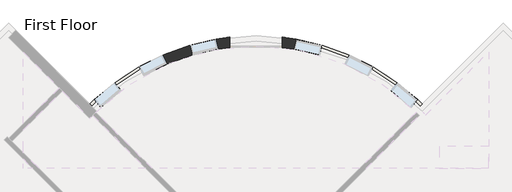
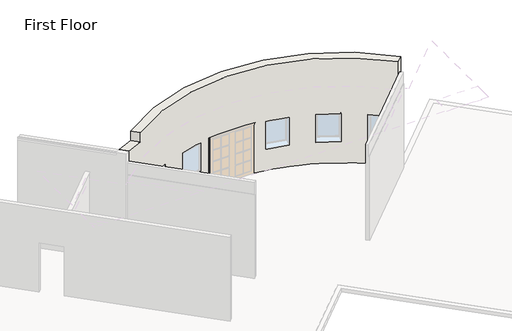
# One storey, part 2 of 4: 1 wall.
"""IFC4 building model written with IfcOpenShell, lengths in millimetres."""

from ifc_helpers import new_model, si_unit, frame, origin, place, context, project, spatial, polyline, circle_curve, ellipse_curve, element, save
from ifc_brep_helpers import plane_surface, cylinder_surface, revolved_surface, advanced_brep

model = new_model("IFC4")

# Units and contexts
model_context = context("Model", 3, world=origin())
ifc_project = project(units=[si_unit("LENGTHUNIT", "METRE", prefix="MILLI")], contexts=[model_context])

# Site, building, storey
site = spatial("IfcSite", under=ifc_project)
building = spatial("IfcBuilding", under=site)
storey = spatial("IfcBuildingStorey", under=building, Name="First Floor", Elevation=0.0)

# Wall
placement = place(None, origin())
element("IfcWall", 1, ObjectType="Exterior - Split Face and CMU on Mtl. Stud", at=placement, inside=storey, context=model_context, shape_type="AdvancedBrep", body=[
    advanced_brep(
    [(-7732.4664887, 9541.1807277, 4572.0), (2926.4294954, 8746.9912878, 4572.0), (2926.4294954, 8746.9912878, 3251.2), (-8662.486224, 8746.9912878, 3251.2), (-8662.486224, 8746.9912878, 4572.0), (-7732.4664887, 9541.1807277, 4165.6), (-3783.1764381, 11081.700582, 0.0), (-8662.486224, 8746.9912878, 0.0), (-8662.486224, 8746.9912878, 1016.0), (-8500.5279216, 8903.2474265, 1016.0), (-8500.5279216, 8903.2474265, 914.4), (-7800.1106469, 9491.0764845, 914.4), (-7800.1106469, 9491.0764845, 1016.0), (-6944.2047205, 10052.3449451, 1016.0), (-6944.2047205, 10052.3449451, 914.4), (-6125.9140626, 10460.4230739, 914.4), (-6125.9140626, 10460.4230739, 1016.0), (-5162.631365, 10806.3763718, 1016.0), (-5162.631365, 10806.3763718, 914.4), (-4271.6861959, 11012.153109, 914.4), (-4271.6861959, 11012.153109, 1016.0), (-3783.1764381, 11081.700582, 1016.0), (2926.4294954, 8746.9912878, 0.0), (-1954.3764458, 11081.8678573, 0.0), (-1954.3764458, 11081.8678573, 1016.0), (-1464.3705327, 11012.153109, 1016.0), (-1464.3705327, 11012.153109, 914.4), (-573.4253636, 10806.3763718, 914.4), (-573.4253636, 10806.3763718, 1016.0), (389.857334, 10460.4230739, 1016.0), (389.857334, 10460.4230739, 914.4), (1208.1479919, 10052.3449451, 914.4), (1208.1479919, 10052.3449451, 1016.0), (2064.0539183, 9491.0764845, 1016.0), (2064.0539183, 9491.0764845, 914.4), (2764.471193, 8903.2474265, 914.4), (2764.471193, 8903.2474265, 1016.0), (2926.4294954, 8746.9912878, 1016.0), (-1954.3764458, 11081.8678573, 2133.6), (-3783.1764381, 11081.700582, 2133.6), (-3783.1764381, 11081.700582, 2336.8), (-4271.6861959, 11012.153109, 2336.8), (-4271.6861959, 11012.153109, 2133.6), (-5162.631365, 10806.3763718, 2133.6), (-5162.631365, 10806.3763718, 2336.8), (-6125.9140626, 10460.4230739, 2336.8), (-6125.9140626, 10460.4230739, 2133.6), (-6944.2047205, 10052.3449451, 2133.6), (-6944.2047205, 10052.3449451, 2336.8), (-7800.1106469, 9491.0764845, 2336.8), (-7800.1106469, 9491.0764845, 2133.6), (-8500.5279216, 8903.2474265, 2133.6), (-8500.5279216, 8903.2474265, 2336.8), (-8662.486224, 8746.9912878, 2336.8), (-8662.486224, 8746.9912878, 3048.0), (2926.4294954, 8746.9912878, 3048.0), (2926.4294954, 8746.9912878, 2336.8), (2764.471193, 8903.2474265, 2336.8), (2764.471193, 8903.2474265, 2133.6), (2064.0539183, 9491.0764845, 2133.6), (2064.0539183, 9491.0764845, 2336.8), (1208.1479919, 10052.3449451, 2336.8), (1208.1479919, 10052.3449451, 2133.6), (389.857334, 10460.4230739, 2133.6), (389.857334, 10460.4230739, 2336.8), (-573.4253636, 10806.3763718, 2336.8), (-573.4253636, 10806.3763718, 2133.6), (-1464.3705327, 11012.153109, 2133.6), (-1464.3705327, 11012.153109, 2336.8), (-1954.3764458, 11081.8678573, 2336.8), (-1954.3764458, 11081.8678573, 1085.85), (-1954.3764458, 11081.8678573, 2133.6), (-1464.3705327, 11012.153109, 2133.6), (-1464.3705327, 11012.153109, 1085.85), (-3783.1764381, 11081.700582, 2133.6), (-3783.1764381, 11081.700582, 1085.85), (-4271.6861959, 11012.153109, 1085.85), (-4271.6861959, 11012.153109, 2133.6), (389.857334, 10460.4230739, 2133.6), (389.857334, 10460.4230739, 1085.85), (-573.4253636, 10806.3763718, 1085.85), (-573.4253636, 10806.3763718, 2133.6), (1208.1479919, 10052.3449451, 1085.85), (1208.1479919, 10052.3449451, 2133.6), (2064.0539183, 9491.0764845, 2133.6), (2064.0539183, 9491.0764845, 1085.85), (2764.471193, 8903.2474265, 1085.85), (2764.471193, 8903.2474265, 2133.6), (2926.4294954, 8746.9912878, 2133.6), (2926.4294954, 8746.9912878, 1085.85), (-6944.2047205, 10052.3449451, 2133.6), (-6944.2047205, 10052.3449451, 1085.85), (-7800.1106469, 9491.0764845, 1085.85), (-7800.1106469, 9491.0764845, 2133.6), (-6125.9140626, 10460.4230739, 1085.85), (-6125.9140626, 10460.4230739, 2133.6), (-5162.631365, 10806.3763718, 2133.6), (-5162.631365, 10806.3763718, 1085.85), (-8500.5279216, 8903.2474265, 2133.6), (-8500.5279216, 8903.2474265, 1085.85), (-8662.486224, 8746.9912878, 1085.85), (-8662.486224, 8746.9912878, 2133.6), (2677.2250436, 8497.7868359, 0.0), (2677.2250436, 8497.7868359, 4165.6), (2677.2250436, 8497.7868359, 4572.0), (-7480.1850855, 9288.8993245, 4572.0), (-7480.1850855, 9288.8993245, 4165.6), (-8413.2817722, 8497.7868359, 4572.0), (-8413.2817722, 8497.7868359, 0.0), (-3783.1439929, 10726.9805509, 0.0), (-3783.1439929, 10726.9805509, 2133.6), (-1954.3440005, 10727.1478261, 2133.6), (-1954.3440005, 10727.1478261, 0.0), (232.3230312, 10144.5305053, 914.4), (232.3230312, 10144.5305053, 2133.6), (1050.6136891, 9736.4523766, 2133.6), (1050.6136891, 9736.4523766, 914.4), (-1543.8084946, 10668.2130246, 914.4), (-1543.8084946, 10668.2130246, 2133.6), (-652.8633255, 10462.4362874, 2133.6), (-652.8633255, 10462.4362874, 914.4), (1837.1286453, 9220.6877054, 914.4), (1837.1286453, 9220.6877054, 2133.6), (2537.5459199, 8632.8586475, 2133.6), (2537.5459199, 8632.8586475, 914.4), (-6786.6704177, 9736.4523766, 914.4), (-6786.6704177, 9736.4523766, 2133.6), (-5968.3797598, 10144.5305053, 2133.6), (-5968.3797598, 10144.5305053, 914.4), (-5083.1934032, 10462.4362874, 914.4), (-5083.1934032, 10462.4362874, 2133.6), (-4192.248234, 10668.2130246, 2133.6), (-4192.248234, 10668.2130246, 914.4), (-8273.6026485, 8632.8586475, 914.4), (-8273.6026485, 8632.8586475, 2133.6), (-7573.1853739, 9220.6877054, 2133.6), (-7573.1853739, 9220.6877054, 914.4), (2861.3220456, 8681.8838379, 1016.0), (2861.3220456, 8681.8838379, 1085.85), (2861.3220456, 8681.8838379, 2133.6), (2861.3220456, 8681.8838379, 2336.8), (2861.3220456, 8681.8838379, 3048.0), (2861.3220456, 8681.8838379, 3251.2), (-8597.3787742, 8681.8838379, 3251.2), (-8597.3787742, 8681.8838379, 3048.0), (-8597.3787742, 8681.8838379, 2336.8), (-8597.3787742, 8681.8838379, 2133.6), (-8597.3787742, 8681.8838379, 1085.85), (-8597.3787742, 8681.8838379, 1016.0), (-3783.1679632, 10989.045348, 1016.0), (-3783.1679632, 10989.045348, 1085.85), (-3783.1679632, 10989.045348, 2133.6), (-1964.5986316, 10990.3620512, 2133.6), (-1954.3679708, 10989.2126232, 2133.6), (-3772.9375129, 10990.1966475, 2133.6), (-1954.3679708, 10989.2126232, 1085.85), (-1954.3679708, 10989.2126232, 1016.0), (348.7018531, 10377.8968537, 1016.0), (348.7018531, 10377.8968537, 1085.85), (348.7018531, 10377.8968537, 2133.6), (1166.992511, 9969.8187249, 2133.6), (1166.992511, 9969.8187249, 1085.85), (1166.992511, 9969.8187249, 1016.0), (1162.5426237, 9972.357721, 2133.6), (353.4072239, 10375.8701608, 2133.6), (-1485.1235209, 10922.2995387, 1016.0), (-1485.1235209, 10922.2995387, 1085.85), (-1485.1235209, 10922.2995387, 2133.6), (-594.1783517, 10716.5228014, 2133.6), (-594.1783517, 10716.5228014, 1085.85), (-594.1783517, 10716.5228014, 1016.0), (-599.0980052, 10717.9528393, 2133.6), (-1480.0750378, 10921.4272905, 2133.6), (2004.7702032, 9420.4380266, 1016.0), (2004.7702032, 9420.4380266, 1085.85), (2004.7702032, 9420.4380266, 2133.6), (2705.1874778, 8832.6089686, 2133.6), (2705.1874778, 8832.6089686, 1085.85), (2705.1874778, 8832.6089686, 1016.0), (2701.4532581, 8836.1166176, 2133.6), (2008.8724422, 9417.3688844, 2133.6), (-6903.0492396, 9969.8187249, 1016.0), (-6903.0492396, 9969.8187249, 1085.85), (-6903.0492396, 9969.8187249, 2133.6), (-6084.7585817, 10377.8968537, 2133.6), (-6084.7585817, 10377.8968537, 1085.85), (-6084.7585817, 10377.8968537, 1016.0), (-6089.4639525, 10375.8701608, 2133.6), (-6898.5993523, 9972.357721, 2133.6), (-5141.8783769, 10716.5228014, 1016.0), (-5141.8783769, 10716.5228014, 1085.85), (-5141.8783769, 10716.5228014, 2133.6), (-4250.9332077, 10922.2995387, 2133.6), (-4250.9332077, 10922.2995387, 1085.85), (-4250.9332077, 10922.2995387, 1016.0), (-4255.9816908, 10921.4272905, 2133.6), (-5136.9587234, 10717.9528393, 2133.6), (-8441.2442064, 8832.6089686, 1016.0), (-8441.2442064, 8832.6089686, 1085.85), (-8441.2442064, 8832.6089686, 2133.6), (-7740.8269318, 9420.4380266, 2133.6), (-7740.8269318, 9420.4380266, 1085.85), (-7740.8269318, 9420.4380266, 1016.0), (-7744.9291708, 9417.3688844, 2133.6), (-8437.5099867, 8836.1166176, 2133.6), (-8437.5099867, 8836.1166176, 2336.8), (-7744.9291708, 9417.3688844, 2336.8), (-6898.5993523, 9972.357721, 2336.8), (-6089.4639525, 10375.8701608, 2336.8), (-5136.9587234, 10717.9528393, 2336.8), (-4255.9816908, 10921.4272905, 2336.8), (-3772.9375129, 10990.1966475, 2336.8), (-1964.5986316, 10990.3620512, 2336.8), (-1480.0750378, 10921.4272905, 2336.8), (-599.0980052, 10717.9528393, 2336.8), (353.4072239, 10375.8701608, 2336.8), (1162.5426237, 9972.357721, 2336.8), (2008.8724422, 9417.3688844, 2336.8), (2701.4532581, 8836.1166176, 2336.8)],
    [
        (0, 1, circle_curve(frame((-2868.0283643, 2903.1420194, 4572.0), z_axis=(0.0, 0.0, -1.0), x_axis=(1.0, 0.0, 0.0)), 8229.6)),
        (1, 2),
        (2, 3, circle_curve(frame((-2868.0283643, 2903.1420194, 3251.2), z_axis=(0.0, 0.0, 1.0), x_axis=(1.0, 0.0, 0.0)), 8229.6)),
        (3, 4),
        (4, 5, ellipse_curve(frame((-2868.0283643, 2903.1420194, 4583.6416667), z_axis=(-0.2236067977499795, -0.22360679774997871, -0.9486832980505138), x_axis=(-0.6708203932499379, -0.6708203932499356, 0.31622776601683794)), 8674.7600774, 8229.6)),
        (5, 0),
        (6, 7, circle_curve(frame((-2868.0283643, 2903.1420194, 0.0), z_axis=(0.0, 0.0, 1.0), x_axis=(1.0, 0.0, 0.0)), 8229.6)),
        (7, 8),
        (8, 9, circle_curve(frame((-2868.0283643, 2903.1420194, 1016.0), z_axis=(0.0, 0.0, -1.0), x_axis=(1.0, 0.0, 0.0)), 8229.6)),
        (9, 10),
        (10, 11, circle_curve(frame((-2868.0283643, 2903.1420194, 914.4), z_axis=(0.0, 0.0, -1.0), x_axis=(1.0, 0.0, 0.0)), 8229.6)),
        (11, 12),
        (12, 13, circle_curve(frame((-2868.0283643, 2903.1420194, 1016.0), z_axis=(0.0, 0.0, -1.0), x_axis=(1.0, 0.0, 0.0)), 8229.6)),
        (13, 14),
        (14, 15, circle_curve(frame((-2868.0283643, 2903.1420194, 914.4), z_axis=(0.0, 0.0, -1.0), x_axis=(1.0, 0.0, 0.0)), 8229.6)),
        (15, 16),
        (16, 17, circle_curve(frame((-2868.0283643, 2903.1420194, 1016.0), z_axis=(0.0, 0.0, -1.0), x_axis=(1.0, 0.0, 0.0)), 8229.6)),
        (17, 18),
        (18, 19, circle_curve(frame((-2868.0283643, 2903.1420194, 914.4), z_axis=(0.0, 0.0, -1.0), x_axis=(1.0, 0.0, 0.0)), 8229.6)),
        (19, 20),
        (20, 21, circle_curve(frame((-2868.0283643, 2903.1420194, 1016.0), z_axis=(0.0, 0.0, -1.0), x_axis=(1.0, 0.0, 0.0)), 8229.6)),
        (21, 6),
        (22, 23, circle_curve(frame((-2868.0283643, 2903.1420194, 0.0), z_axis=(0.0, 0.0, 1.0), x_axis=(1.0, 0.0, 0.0)), 8229.6)),
        (23, 24),
        (24, 25, circle_curve(frame((-2868.0283643, 2903.1420194, 1016.0), z_axis=(0.0, 0.0, -1.0), x_axis=(1.0, 0.0, 0.0)), 8229.6)),
        (25, 26),
        (26, 27, circle_curve(frame((-2868.0283643, 2903.1420194, 914.4), z_axis=(0.0, 0.0, -1.0), x_axis=(1.0, 0.0, 0.0)), 8229.6)),
        (27, 28),
        (28, 29, circle_curve(frame((-2868.0283643, 2903.1420194, 1016.0), z_axis=(0.0, 0.0, -1.0), x_axis=(1.0, 0.0, 0.0)), 8229.6)),
        (29, 30),
        (30, 31, circle_curve(frame((-2868.0283643, 2903.1420194, 914.4), z_axis=(0.0, 0.0, -1.0), x_axis=(1.0, 0.0, 0.0)), 8229.6)),
        (31, 32),
        (32, 33, circle_curve(frame((-2868.0283643, 2903.1420194, 1016.0), z_axis=(0.0, 0.0, -1.0), x_axis=(1.0, 0.0, 0.0)), 8229.6)),
        (33, 34),
        (34, 35, circle_curve(frame((-2868.0283643, 2903.1420194, 914.4), z_axis=(0.0, 0.0, -1.0), x_axis=(1.0, 0.0, 0.0)), 8229.6)),
        (35, 36),
        (36, 37, circle_curve(frame((-2868.0283643, 2903.1420194, 1016.0), z_axis=(0.0, 0.0, -1.0), x_axis=(1.0, 0.0, 0.0)), 8229.6)),
        (37, 22),
        (38, 39, circle_curve(frame((-2868.0283643, 2903.1420194, 2133.6), z_axis=(0.0, 0.0, 1.0), x_axis=(1.0, 0.0, 0.0)), 8229.6)),
        (39, 40),
        (40, 41, circle_curve(frame((-2868.0283643, 2903.1420194, 2336.8), z_axis=(0.0, 0.0, 1.0), x_axis=(1.0, 0.0, 0.0)), 8229.6)),
        (41, 42),
        (42, 43, circle_curve(frame((-2868.0283643, 2903.1420194, 2133.6), z_axis=(0.0, 0.0, 1.0), x_axis=(1.0, 0.0, 0.0)), 8229.6)),
        (43, 44),
        (44, 45, circle_curve(frame((-2868.0283643, 2903.1420194, 2336.8), z_axis=(0.0, 0.0, 1.0), x_axis=(1.0, 0.0, 0.0)), 8229.6)),
        (45, 46),
        (46, 47, circle_curve(frame((-2868.0283643, 2903.1420194, 2133.6), z_axis=(0.0, 0.0, 1.0), x_axis=(1.0, 0.0, 0.0)), 8229.6)),
        (47, 48),
        (48, 49, circle_curve(frame((-2868.0283643, 2903.1420194, 2336.8), z_axis=(0.0, 0.0, 1.0), x_axis=(1.0, 0.0, 0.0)), 8229.6)),
        (49, 50),
        (50, 51, circle_curve(frame((-2868.0283643, 2903.1420194, 2133.6), z_axis=(0.0, 0.0, 1.0), x_axis=(1.0, 0.0, 0.0)), 8229.6)),
        (51, 52),
        (52, 53, circle_curve(frame((-2868.0283643, 2903.1420194, 2336.8), z_axis=(0.0, 0.0, 1.0), x_axis=(1.0, 0.0, 0.0)), 8229.6)),
        (53, 54),
        (54, 55, circle_curve(frame((-2868.0283643, 2903.1420194, 3048.0), z_axis=(0.0, 0.0, -1.0), x_axis=(1.0, 0.0, 0.0)), 8229.6)),
        (55, 56),
        (56, 57, circle_curve(frame((-2868.0283643, 2903.1420194, 2336.8), z_axis=(0.0, 0.0, 1.0), x_axis=(1.0, 0.0, 0.0)), 8229.6)),
        (57, 58),
        (58, 59, circle_curve(frame((-2868.0283643, 2903.1420194, 2133.6), z_axis=(0.0, 0.0, 1.0), x_axis=(1.0, 0.0, 0.0)), 8229.6)),
        (59, 60),
        (60, 61, circle_curve(frame((-2868.0283643, 2903.1420194, 2336.8), z_axis=(0.0, 0.0, 1.0), x_axis=(1.0, 0.0, 0.0)), 8229.6)),
        (61, 62),
        (62, 63, circle_curve(frame((-2868.0283643, 2903.1420194, 2133.6), z_axis=(0.0, 0.0, 1.0), x_axis=(1.0, 0.0, 0.0)), 8229.6)),
        (63, 64),
        (64, 65, circle_curve(frame((-2868.0283643, 2903.1420194, 2336.8), z_axis=(0.0, 0.0, 1.0), x_axis=(1.0, 0.0, 0.0)), 8229.6)),
        (65, 66),
        (66, 67, circle_curve(frame((-2868.0283643, 2903.1420194, 2133.6), z_axis=(0.0, 0.0, 1.0), x_axis=(1.0, 0.0, 0.0)), 8229.6)),
        (67, 68),
        (68, 69, circle_curve(frame((-2868.0283643, 2903.1420194, 2336.8), z_axis=(0.0, 0.0, 1.0), x_axis=(1.0, 0.0, 0.0)), 8229.6)),
        (69, 38),
        (70, 71),
        (71, 72, circle_curve(frame((-2868.0283643, 2903.1420194, 2133.6), z_axis=(0.0, 0.0, -1.0), x_axis=(1.0, 0.0, 0.0)), 8229.6)),
        (72, 73),
        (73, 70, circle_curve(frame((-2868.0283643, 2903.1420194, 1085.85), z_axis=(0.0, 0.0, 1.0), x_axis=(1.0, 0.0, 0.0)), 8229.6)),
        (74, 75),
        (75, 76, circle_curve(frame((-2868.0283643, 2903.1420194, 1085.85), z_axis=(0.0, 0.0, 1.0), x_axis=(1.0, 0.0, 0.0)), 8229.6)),
        (76, 77),
        (77, 74, circle_curve(frame((-2868.0283643, 2903.1420194, 2133.6), z_axis=(0.0, 0.0, -1.0), x_axis=(1.0, 0.0, 0.0)), 8229.6)),
        (78, 79),
        (79, 80, circle_curve(frame((-2868.0283643, 2903.1420194, 1085.85), z_axis=(0.0, 0.0, 1.0), x_axis=(1.0, 0.0, 0.0)), 8229.6)),
        (80, 81),
        (81, 78, circle_curve(frame((-2868.0283643, 2903.1420194, 2133.6), z_axis=(0.0, 0.0, -1.0), x_axis=(1.0, 0.0, 0.0)), 8229.6)),
        (82, 83),
        (83, 84, circle_curve(frame((-2868.0283643, 2903.1420194, 2133.6), z_axis=(0.0, 0.0, -1.0), x_axis=(1.0, 0.0, 0.0)), 8229.6)),
        (84, 85),
        (85, 82, circle_curve(frame((-2868.0283643, 2903.1420194, 1085.85), z_axis=(0.0, 0.0, 1.0), x_axis=(1.0, 0.0, 0.0)), 8229.6)),
        (86, 87),
        (87, 88, circle_curve(frame((-2868.0283643, 2903.1420194, 2133.6), z_axis=(0.0, 0.0, -1.0), x_axis=(1.0, 0.0, 0.0)), 8229.6)),
        (88, 89),
        (89, 86, circle_curve(frame((-2868.0283643, 2903.1420194, 1085.85), z_axis=(0.0, 0.0, 1.0), x_axis=(1.0, 0.0, 0.0)), 8229.6)),
        (90, 91),
        (91, 92, circle_curve(frame((-2868.0283643, 2903.1420194, 1085.85), z_axis=(0.0, 0.0, 1.0), x_axis=(1.0, 0.0, 0.0)), 8229.6)),
        (92, 93),
        (93, 90, circle_curve(frame((-2868.0283643, 2903.1420194, 2133.6), z_axis=(0.0, 0.0, -1.0), x_axis=(1.0, 0.0, 0.0)), 8229.6)),
        (94, 95),
        (95, 96, circle_curve(frame((-2868.0283643, 2903.1420194, 2133.6), z_axis=(0.0, 0.0, -1.0), x_axis=(1.0, 0.0, 0.0)), 8229.6)),
        (96, 97),
        (97, 94, circle_curve(frame((-2868.0283643, 2903.1420194, 1085.85), z_axis=(0.0, 0.0, 1.0), x_axis=(1.0, 0.0, 0.0)), 8229.6)),
        (98, 99),
        (99, 100, circle_curve(frame((-2868.0283643, 2903.1420194, 1085.85), z_axis=(0.0, 0.0, 1.0), x_axis=(1.0, 0.0, 0.0)), 8229.6)),
        (100, 101),
        (101, 98, circle_curve(frame((-2868.0283643, 2903.1420194, 2133.6), z_axis=(0.0, 0.0, -1.0), x_axis=(1.0, 0.0, 0.0)), 8229.6)),
        (102, 103),
        (103, 104),
        (104, 105, circle_curve(frame((-2868.0283643, 2903.1420194, 4572.0), z_axis=(0.0, 0.0, 1.0), x_axis=(1.0, 0.0, 0.0)), 7877.175)),
        (105, 106),
        (106, 107, ellipse_curve(frame((-2868.0283643, 2903.1420194, 4583.6416667), z_axis=(0.2236067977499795, 0.22360679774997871, 0.9486832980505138), x_axis=(0.6708203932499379, 0.6708203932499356, -0.31622776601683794)), 8303.2715092, 7877.175)),
        (107, 108),
        (108, 109, circle_curve(frame((-2868.0283643, 2903.1420194, 0.0), z_axis=(0.0, 0.0, -1.0), x_axis=(1.0, 0.0, 0.0)), 7877.175)),
        (109, 110),
        (110, 111, circle_curve(frame((-2868.0283643, 2903.1420194, 2133.6), z_axis=(0.0, 0.0, -1.0), x_axis=(1.0, 0.0, 0.0)), 7877.175)),
        (111, 112),
        (112, 102, circle_curve(frame((-2868.0283643, 2903.1420194, 0.0), z_axis=(0.0, 0.0, -1.0), x_axis=(1.0, 0.0, 0.0)), 7877.175)),
        (113, 114),
        (114, 115, circle_curve(frame((-2868.0283643, 2903.1420194, 2133.6), z_axis=(0.0, 0.0, -1.0), x_axis=(1.0, 0.0, 0.0)), 7877.175)),
        (115, 116),
        (116, 113, circle_curve(frame((-2868.0283643, 2903.1420194, 914.4), z_axis=(0.0, 0.0, 1.0), x_axis=(1.0, 0.0, 0.0)), 7877.175)),
        (117, 118),
        (118, 119, circle_curve(frame((-2868.0283643, 2903.1420194, 2133.6), z_axis=(0.0, 0.0, -1.0), x_axis=(1.0, 0.0, 0.0)), 7877.175)),
        (119, 120),
        (120, 117, circle_curve(frame((-2868.0283643, 2903.1420194, 914.4), z_axis=(0.0, 0.0, 1.0), x_axis=(1.0, 0.0, 0.0)), 7877.175)),
        (121, 122),
        (122, 123, circle_curve(frame((-2868.0283643, 2903.1420194, 2133.6), z_axis=(0.0, 0.0, -1.0), x_axis=(1.0, 0.0, 0.0)), 7877.175)),
        (123, 124),
        (124, 121, circle_curve(frame((-2868.0283643, 2903.1420194, 914.4), z_axis=(0.0, 0.0, 1.0), x_axis=(1.0, 0.0, 0.0)), 7877.175)),
        (125, 126),
        (126, 127, circle_curve(frame((-2868.0283643, 2903.1420194, 2133.6), z_axis=(0.0, 0.0, -1.0), x_axis=(1.0, 0.0, 0.0)), 7877.175)),
        (127, 128),
        (128, 125, circle_curve(frame((-2868.0283643, 2903.1420194, 914.4), z_axis=(0.0, 0.0, 1.0), x_axis=(1.0, 0.0, 0.0)), 7877.175)),
        (129, 130),
        (130, 131, circle_curve(frame((-2868.0283643, 2903.1420194, 2133.6), z_axis=(0.0, 0.0, -1.0), x_axis=(1.0, 0.0, 0.0)), 7877.175)),
        (131, 132),
        (132, 129, circle_curve(frame((-2868.0283643, 2903.1420194, 914.4), z_axis=(0.0, 0.0, 1.0), x_axis=(1.0, 0.0, 0.0)), 7877.175)),
        (133, 134),
        (134, 135, circle_curve(frame((-2868.0283643, 2903.1420194, 2133.6), z_axis=(0.0, 0.0, -1.0), x_axis=(1.0, 0.0, 0.0)), 7877.175)),
        (135, 136),
        (136, 133, circle_curve(frame((-2868.0283643, 2903.1420194, 914.4), z_axis=(0.0, 0.0, 1.0), x_axis=(1.0, 0.0, 0.0)), 7877.175)),
        (1, 104),
        (102, 22),
        (37, 137),
        (137, 138),
        (138, 89),
        (88, 139),
        (139, 140),
        (140, 56),
        (55, 141),
        (141, 142),
        (142, 2),
        (107, 4),
        (3, 143),
        (143, 144),
        (144, 54),
        (53, 145),
        (145, 146),
        (146, 101),
        (100, 147),
        (147, 148),
        (148, 8),
        (7, 108),
        (0, 105),
        (5, 106),
        (112, 23),
        (6, 109),
        (21, 149),
        (149, 150),
        (150, 75),
        (74, 151),
        (151, 110),
        (38, 152),
        (152, 153, circle_curve(frame((-2868.0283643, 2903.1420194, 2133.6), z_axis=(0.0, 0.0, -1.0), x_axis=(0.1110202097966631, 0.9938181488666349, 0.0)), 8137.525)),
        (153, 111),
        (151, 154, circle_curve(frame((-2868.0283643, 2903.1420194, 2133.6), z_axis=(0.0, 0.0, -1.0), x_axis=(-0.1705620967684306, 0.9853469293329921, 0.0)), 8137.525)),
        (154, 39),
        (153, 71),
        (70, 155),
        (155, 156),
        (156, 24),
        (113, 30),
        (29, 157),
        (157, 158),
        (158, 79),
        (78, 159),
        (159, 114),
        (116, 31),
        (115, 160),
        (160, 83),
        (82, 161),
        (161, 162),
        (162, 32),
        (62, 163),
        (163, 160, circle_curve(frame((-2868.0283643, 2903.1420194, 2133.6), z_axis=(0.0, 0.0, -1.0), x_axis=(0.4953067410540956, 0.868718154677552, 0.0)), 8137.525)),
        (159, 164, circle_curve(frame((-2868.0283643, 2903.1420194, 2133.6), z_axis=(0.0, 0.0, -1.0), x_axis=(0.2788231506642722, 0.9603424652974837, 0.0)), 8137.525)),
        (164, 63),
        (117, 26),
        (25, 165),
        (165, 166),
        (166, 73),
        (72, 167),
        (167, 118),
        (120, 27),
        (119, 168),
        (168, 81),
        (80, 169),
        (169, 170),
        (170, 28),
        (66, 171),
        (171, 168, circle_curve(frame((-2868.0283643, 2903.1420194, 2133.6), z_axis=(0.0, 0.0, -1.0), x_axis=(0.2788231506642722, 0.9603424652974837, 0.0)), 8137.525)),
        (167, 172, circle_curve(frame((-2868.0283643, 2903.1420194, 2133.6), z_axis=(0.0, 0.0, -1.0), x_axis=(0.1110202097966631, 0.9938181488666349, 0.0)), 8137.525)),
        (172, 67),
        (121, 34),
        (33, 173),
        (173, 174),
        (174, 85),
        (84, 175),
        (175, 122),
        (124, 35),
        (123, 176),
        (176, 87),
        (86, 177),
        (177, 178),
        (178, 36),
        (58, 179),
        (179, 176, circle_curve(frame((-2868.0283643, 2903.1420194, 2133.6), z_axis=(0.0, 0.0, -1.0), x_axis=(0.6844196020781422, 0.7290883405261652, 0.0)), 8137.525)),
        (175, 180, circle_curve(frame((-2868.0283643, 2903.1420194, 2133.6), z_axis=(0.0, 0.0, -1.0), x_axis=(0.4953067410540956, 0.868718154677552, 0.0)), 8137.525)),
        (180, 59),
        (125, 14),
        (13, 181),
        (181, 182),
        (182, 91),
        (90, 183),
        (183, 126),
        (128, 15),
        (127, 184),
        (184, 95),
        (94, 185),
        (185, 186),
        (186, 16),
        (46, 187),
        (187, 184, circle_curve(frame((-2868.0283643, 2903.1420194, 2133.6), z_axis=(0.0, 0.0, -1.0), x_axis=(-0.3958741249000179, 0.9183047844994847, 0.0)), 8137.525)),
        (183, 188, circle_curve(frame((-2868.0283643, 2903.1420194, 2133.6), z_axis=(0.0, 0.0, -1.0), x_axis=(-0.5993100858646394, 0.8005169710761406, 0.0)), 8137.525)),
        (188, 47),
        (129, 18),
        (17, 189),
        (189, 190),
        (190, 97),
        (96, 191),
        (191, 130),
        (132, 19),
        (131, 192),
        (192, 77),
        (76, 193),
        (193, 194),
        (194, 20),
        (42, 195),
        (195, 192, circle_curve(frame((-2868.0283643, 2903.1420194, 2133.6), z_axis=(0.0, 0.0, -1.0), x_axis=(-0.1705620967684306, 0.9853469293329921, 0.0)), 8137.525)),
        (191, 196, circle_curve(frame((-2868.0283643, 2903.1420194, 2133.6), z_axis=(0.0, 0.0, -1.0), x_axis=(-0.3958741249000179, 0.9183047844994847, 0.0)), 8137.525)),
        (196, 43),
        (133, 10),
        (9, 197),
        (197, 198),
        (198, 99),
        (98, 199),
        (199, 134),
        (136, 11),
        (135, 200),
        (200, 93),
        (92, 201),
        (201, 202),
        (202, 12),
        (50, 203),
        (203, 200, circle_curve(frame((-2868.0283643, 2903.1420194, 2133.6), z_axis=(0.0, 0.0, -1.0), x_axis=(-0.5993100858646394, 0.8005169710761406, 0.0)), 8137.525)),
        (199, 204, circle_curve(frame((-2868.0283643, 2903.1420194, 2133.6), z_axis=(0.0, 0.0, -1.0), x_axis=(-0.7120553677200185, 0.70212331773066, 0.0)), 8137.525)),
        (204, 51),
        (198, 147, circle_curve(frame((-2868.0283643, 2903.1420194, 1085.85), z_axis=(0.0, 0.0, 1.0), x_axis=(-0.7040995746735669, 0.7101012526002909, 0.0)), 8137.525)),
        (148, 197, circle_curve(frame((-2868.0283643, 2903.1420194, 1016.0), z_axis=(0.0, 0.0, -1.0), x_axis=(-0.7040995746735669, 0.7101012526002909, 0.0)), 8137.525)),
        (182, 201, circle_curve(frame((-2868.0283643, 2903.1420194, 1085.85), z_axis=(0.0, 0.0, 1.0), x_axis=(-0.5993100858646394, 0.8005169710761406, 0.0)), 8137.525)),
        (202, 181, circle_curve(frame((-2868.0283643, 2903.1420194, 1016.0), z_axis=(0.0, 0.0, -1.0), x_axis=(-0.5993100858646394, 0.8005169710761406, 0.0)), 8137.525)),
        (190, 185, circle_curve(frame((-2868.0283643, 2903.1420194, 1085.85), z_axis=(0.0, 0.0, 1.0), x_axis=(-0.3958741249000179, 0.9183047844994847, 0.0)), 8137.525)),
        (186, 189, circle_curve(frame((-2868.0283643, 2903.1420194, 1016.0), z_axis=(0.0, 0.0, -1.0), x_axis=(-0.3958741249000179, 0.9183047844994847, 0.0)), 8137.525)),
        (150, 193, circle_curve(frame((-2868.0283643, 2903.1420194, 1085.85), z_axis=(0.0, 0.0, 1.0), x_axis=(-0.1705620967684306, 0.9853469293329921, 0.0)), 8137.525)),
        (194, 149, circle_curve(frame((-2868.0283643, 2903.1420194, 1016.0), z_axis=(0.0, 0.0, -1.0), x_axis=(-0.1705620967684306, 0.9853469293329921, 0.0)), 8137.525)),
        (166, 155, circle_curve(frame((-2868.0283643, 2903.1420194, 1085.85), z_axis=(0.0, 0.0, 1.0), x_axis=(0.1110202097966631, 0.9938181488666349, 0.0)), 8137.525)),
        (156, 165, circle_curve(frame((-2868.0283643, 2903.1420194, 1016.0), z_axis=(0.0, 0.0, -1.0), x_axis=(0.1110202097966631, 0.9938181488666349, 0.0)), 8137.525)),
        (158, 169, circle_curve(frame((-2868.0283643, 2903.1420194, 1085.85), z_axis=(0.0, 0.0, 1.0), x_axis=(0.2788231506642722, 0.9603424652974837, 0.0)), 8137.525)),
        (170, 157, circle_curve(frame((-2868.0283643, 2903.1420194, 1016.0), z_axis=(0.0, 0.0, -1.0), x_axis=(0.2788231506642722, 0.9603424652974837, 0.0)), 8137.525)),
        (174, 161, circle_curve(frame((-2868.0283643, 2903.1420194, 1085.85), z_axis=(0.0, 0.0, 1.0), x_axis=(0.4953067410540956, 0.868718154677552, 0.0)), 8137.525)),
        (162, 173, circle_curve(frame((-2868.0283643, 2903.1420194, 1016.0), z_axis=(0.0, 0.0, -1.0), x_axis=(0.4953067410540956, 0.868718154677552, 0.0)), 8137.525)),
        (138, 177, circle_curve(frame((-2868.0283643, 2903.1420194, 1085.85), z_axis=(0.0, 0.0, 1.0), x_axis=(0.6844196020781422, 0.7290883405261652, 0.0)), 8137.525)),
        (178, 137, circle_curve(frame((-2868.0283643, 2903.1420194, 1016.0), z_axis=(0.0, 0.0, -1.0), x_axis=(0.6844196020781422, 0.7290883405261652, 0.0)), 8137.525)),
        (205, 52),
        (204, 205),
        (146, 199, circle_curve(frame((-2868.0283643, 2903.1420194, 2133.6), z_axis=(0.0, 0.0, -1.0), x_axis=(-0.7120553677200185, 0.70212331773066, 0.0)), 8137.525)),
        (145, 205, circle_curve(frame((-2868.0283643, 2903.1420194, 2336.8), z_axis=(0.0, 0.0, -1.0), x_axis=(-0.7120553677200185, 0.70212331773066, 0.0)), 8137.525)),
        (206, 203),
        (49, 206),
        (207, 48),
        (188, 207),
        (200, 183, circle_curve(frame((-2868.0283643, 2903.1420194, 2133.6), z_axis=(0.0, 0.0, -1.0), x_axis=(-0.5993100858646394, 0.8005169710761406, 0.0)), 8137.525)),
        (206, 207, circle_curve(frame((-2868.0283643, 2903.1420194, 2336.8), z_axis=(0.0, 0.0, -1.0), x_axis=(-0.5993100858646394, 0.8005169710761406, 0.0)), 8137.525)),
        (208, 187),
        (45, 208),
        (209, 44),
        (196, 209),
        (184, 191, circle_curve(frame((-2868.0283643, 2903.1420194, 2133.6), z_axis=(0.0, 0.0, -1.0), x_axis=(-0.3958741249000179, 0.9183047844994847, 0.0)), 8137.525)),
        (208, 209, circle_curve(frame((-2868.0283643, 2903.1420194, 2336.8), z_axis=(0.0, 0.0, -1.0), x_axis=(-0.3958741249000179, 0.9183047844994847, 0.0)), 8137.525)),
        (210, 195),
        (41, 210),
        (211, 40),
        (154, 211),
        (192, 151, circle_curve(frame((-2868.0283643, 2903.1420194, 2133.6), z_axis=(0.0, 0.0, -1.0), x_axis=(-0.1705620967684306, 0.9853469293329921, 0.0)), 8137.525)),
        (210, 211, circle_curve(frame((-2868.0283643, 2903.1420194, 2336.8), z_axis=(0.0, 0.0, -1.0), x_axis=(-0.1705620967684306, 0.9853469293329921, 0.0)), 8137.525)),
        (212, 152),
        (69, 212),
        (213, 68),
        (172, 213),
        (153, 167, circle_curve(frame((-2868.0283643, 2903.1420194, 2133.6), z_axis=(0.0, 0.0, -1.0), x_axis=(0.1110202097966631, 0.9938181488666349, 0.0)), 8137.525)),
        (212, 213, circle_curve(frame((-2868.0283643, 2903.1420194, 2336.8), z_axis=(0.0, 0.0, -1.0), x_axis=(0.1110202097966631, 0.9938181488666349, 0.0)), 8137.525)),
        (214, 171),
        (65, 214),
        (215, 64),
        (164, 215),
        (168, 159, circle_curve(frame((-2868.0283643, 2903.1420194, 2133.6), z_axis=(0.0, 0.0, -1.0), x_axis=(0.2788231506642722, 0.9603424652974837, 0.0)), 8137.525)),
        (214, 215, circle_curve(frame((-2868.0283643, 2903.1420194, 2336.8), z_axis=(0.0, 0.0, -1.0), x_axis=(0.2788231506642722, 0.9603424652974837, 0.0)), 8137.525)),
        (216, 163),
        (61, 216),
        (217, 60),
        (180, 217),
        (160, 175, circle_curve(frame((-2868.0283643, 2903.1420194, 2133.6), z_axis=(0.0, 0.0, -1.0), x_axis=(0.4953067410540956, 0.868718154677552, 0.0)), 8137.525)),
        (216, 217, circle_curve(frame((-2868.0283643, 2903.1420194, 2336.8), z_axis=(0.0, 0.0, -1.0), x_axis=(0.4953067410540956, 0.868718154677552, 0.0)), 8137.525)),
        (218, 179),
        (57, 218),
        (176, 139, circle_curve(frame((-2868.0283643, 2903.1420194, 2133.6), z_axis=(0.0, 0.0, -1.0), x_axis=(0.6844196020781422, 0.7290883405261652, 0.0)), 8137.525)),
        (218, 140, circle_curve(frame((-2868.0283643, 2903.1420194, 2336.8), z_axis=(0.0, 0.0, -1.0), x_axis=(0.6844196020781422, 0.7290883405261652, 0.0)), 8137.525)),
        (144, 141, circle_curve(frame((-2868.0283643, 2903.1420194, 3048.0), z_axis=(0.0, 0.0, -1.0), x_axis=(-0.7120553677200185, 0.70212331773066, 0.0)), 8137.525)),
        (143, 142, circle_curve(frame((-2868.0283643, 2903.1420194, 3251.2), z_axis=(0.0, 0.0, -1.0), x_axis=(-0.7120553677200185, 0.70212331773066, 0.0)), 8137.525)),
    ],
    [
        cylinder_surface(frame((-2868.0283643, 2903.1420194, 0.0), z_axis=(0.0, 0.0, 1.0), x_axis=(1.0, 0.0, 0.0)), 8229.6),
        revolved_surface(polyline([(5009.146635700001, 2903.1420194, 0.0), (5009.146635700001, 2903.1420194, 7209.366666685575)]), (-2868.0283643, 2903.1420194, 0.0), (0.0, 0.0, -1.0)),
        plane_surface(frame((2735.6514552, 8556.2132476, 0.0), z_axis=(0.707106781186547, -0.7071067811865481, 0.0), x_axis=(-0.7071067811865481, -0.707106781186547, 0.0))),
        plane_surface(frame((-11489.0742405, 11573.5793042, 0.0), z_axis=(-0.7071067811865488, -0.7071067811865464, 0.0), x_axis=(-0.7071067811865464, 0.7071067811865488, 0.0))),
        plane_surface(frame((5361.5716357, 2903.1420194, 4572.0), z_axis=(0.0, 0.0, 1.0), x_axis=(0.0, 1.0, 0.0))),
        plane_surface(frame((-6316.4467148, 8125.1609538, 4165.6), z_axis=(-0.7071067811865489, -0.7071067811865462, 0.0), x_axis=(-0.7071067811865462, 0.7071067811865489, 0.0))),
        plane_surface(frame((-1143.8191891, 2952.533428, 4165.6), z_axis=(0.2236067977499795, 0.22360679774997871, 0.9486832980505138), x_axis=(-0.7071067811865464, 0.7071067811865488, 0.0))),
        plane_surface(frame((2801.004414, 8621.5662063, 0.0), z_axis=(0.0, 0.0, -1.0), x_axis=(-0.707106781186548, -0.707106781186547, 0.0))),
        plane_surface(frame((-3783.3158341, 12605.7005756, 0.0), z_axis=(0.9999999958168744, 9.14672155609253e-05, 0.0), x_axis=(9.14672155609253e-05, -0.9999999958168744, 0.0))),
        plane_surface(frame((-3783.3158341, 12605.7005756, 2133.6), z_axis=(0.0, 0.0, -1.0000000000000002), x_axis=(9.14672155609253e-05, -0.9999999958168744, 0.0))),
        plane_surface(frame((-1954.5158418, 12605.8678509, 2133.6), z_axis=(-0.9999999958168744, -9.146721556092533e-05, 0.0), x_axis=(9.146721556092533e-05, -0.9999999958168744, 0.0))),
        plane_surface(frame((389.857334, 10460.4230739, 2133.6), z_axis=(0.8948935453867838, -0.44627966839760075, 0.0), x_axis=(-0.44627966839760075, -0.8948935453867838, 0.0))),
        plane_surface(frame((389.857334, 10460.4230739, 914.4), z_axis=(0.0, 0.0, 1.0000000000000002), x_axis=(-0.44627966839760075, -0.8948935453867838, 0.0))),
        plane_surface(frame((1208.1479919, 10052.3449451, 914.4), z_axis=(-0.8948935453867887, 0.4462796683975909, 0.0), x_axis=(-0.4462796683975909, -0.8948935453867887, 0.0))),
        plane_surface(frame((1208.1479919, 10052.3449451, 2133.6), z_axis=(0.0, 0.0, -1.0000000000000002), x_axis=(-0.4462796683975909, -0.8948935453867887, 0.0))),
        plane_surface(frame((-1464.3705327, 11012.153109, 2133.6), z_axis=(0.9743494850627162, -0.22504017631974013, 0.0), x_axis=(-0.22504017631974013, -0.9743494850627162, 0.0))),
        plane_surface(frame((-1464.3705327, 11012.153109, 914.4), z_axis=(0.0, 0.0, 1.0), x_axis=(-0.2250401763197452, -0.974349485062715, 0.0))),
        plane_surface(frame((-573.4253636, 10806.3763718, 914.4), z_axis=(-0.9743494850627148, 0.22504017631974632, 0.0), x_axis=(-0.22504017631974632, -0.9743494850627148, 0.0))),
        plane_surface(frame((-573.4253636, 10806.3763718, 2133.6), z_axis=(0.0, 0.0, -1.0), x_axis=(-0.22504017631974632, -0.9743494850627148, 0.0))),
        plane_surface(frame((2064.0539183, 9491.0764845, 2133.6), z_axis=(0.765985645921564, -0.6428576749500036, 0.0), x_axis=(-0.6428576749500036, -0.765985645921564, 0.0))),
        plane_surface(frame((2064.0539183, 9491.0764845, 914.4), z_axis=(0.0, 0.0, 1.0000000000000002), x_axis=(-0.6428576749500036, -0.765985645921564, 0.0))),
        plane_surface(frame((2764.471193, 8903.2474265, 914.4), z_axis=(-0.7659856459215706, 0.6428576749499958, 0.0), x_axis=(-0.6428576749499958, -0.7659856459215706, 0.0))),
        plane_surface(frame((2764.471193, 8903.2474265, 2133.6), z_axis=(0.0, 0.0, -1.0000000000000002), x_axis=(-0.6428576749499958, -0.7659856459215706, 0.0))),
        plane_surface(frame((-6944.2047205, 10052.3449451, 2133.6), z_axis=(0.8948935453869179, 0.44627966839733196, 0.0), x_axis=(0.44627966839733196, -0.8948935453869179, 0.0))),
        plane_surface(frame((-6944.2047205, 10052.3449451, 914.4), z_axis=(0.0, 0.0, 1.0000000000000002), x_axis=(0.44627966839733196, -0.8948935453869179, 0.0))),
        plane_surface(frame((-6125.9140626, 10460.4230739, 914.4), z_axis=(-0.8948935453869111, -0.4462796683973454, 0.0), x_axis=(0.4462796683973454, -0.8948935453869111, 0.0))),
        plane_surface(frame((-6125.9140626, 10460.4230739, 2133.6), z_axis=(0.0, 0.0, -1.0000000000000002), x_axis=(0.4462796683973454, -0.8948935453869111, 0.0))),
        plane_surface(frame((-4819.6701363, 9321.4677565, 2133.6), z_axis=(0.9743494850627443, 0.22504017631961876, 0.0), x_axis=(-0.22504017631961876, 0.9743494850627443, 0.0))),
        plane_surface(frame((-4819.6701363, 9321.4677565, 914.4), z_axis=(0.0, 0.0, 1.0), x_axis=(-0.22504017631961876, 0.9743494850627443, 0.0))),
        plane_surface(frame((-3928.7249672, 9527.2444938, 914.4), z_axis=(-0.9743494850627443, -0.22504017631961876, 0.0), x_axis=(-0.22504017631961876, 0.9743494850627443, 0.0))),
        plane_surface(frame((-3928.7249672, 9527.2444938, 2133.6), z_axis=(0.0, 0.0, -1.0), x_axis=(-0.22504017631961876, 0.9743494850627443, 0.0))),
        plane_surface(frame((-8500.5279216, 8903.2474265, 2133.6), z_axis=(0.7659856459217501, 0.6428576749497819, 0.0), x_axis=(0.6428576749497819, -0.7659856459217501, 0.0))),
        plane_surface(frame((-8500.5279216, 8903.2474265, 914.4), z_axis=(0.0, 0.0, 1.0000000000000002), x_axis=(0.64285767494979, -0.7659856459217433, 0.0))),
        plane_surface(frame((-7800.1106469, 9491.0764845, 914.4), z_axis=(-0.7659856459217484, -0.642857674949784, 0.0), x_axis=(0.642857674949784, -0.7659856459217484, 0.0))),
        plane_surface(frame((-7800.1106469, 9491.0764845, 2133.6), z_axis=(0.0, 0.0, -1.0000000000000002), x_axis=(0.642857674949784, -0.7659856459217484, 0.0))),
        plane_surface(frame((-2868.0283643, 2903.1420194, 1085.85), z_axis=(0.0, 0.0, -1.0), x_axis=(-0.7040995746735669, 0.7101012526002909, 0.0))),
        plane_surface(frame((-2868.0283643, 2903.1420194, 1016.0), z_axis=(0.0, 0.0, 1.0), x_axis=(-0.7040995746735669, 0.7101012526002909, 0.0))),
        cylinder_surface(frame((-2868.0283643, 2903.1420194, 1016.0), z_axis=(0.0, 0.0, -1.0), x_axis=(-0.7040995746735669, 0.7101012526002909, 0.0)), 8137.525),
        plane_surface(frame((-2868.0283643, 2903.1420194, 1085.85), z_axis=(0.0, 0.0, -1.0), x_axis=(-0.5993100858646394, 0.8005169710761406, 0.0))),
        plane_surface(frame((-2868.0283643, 2903.1420194, 1016.0), z_axis=(0.0, 0.0, 1.0), x_axis=(-0.5993100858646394, 0.8005169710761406, 0.0))),
        cylinder_surface(frame((-2868.0283643, 2903.1420194, 1016.0), z_axis=(0.0, 0.0, -1.0), x_axis=(-0.5993100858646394, 0.8005169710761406, 0.0)), 8137.525),
        plane_surface(frame((-2868.0283643, 2903.1420194, 1085.85), z_axis=(0.0, 0.0, -1.0), x_axis=(-0.3958741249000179, 0.9183047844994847, 0.0))),
        plane_surface(frame((-2868.0283643, 2903.1420194, 1016.0), z_axis=(0.0, 0.0, 1.0), x_axis=(-0.3958741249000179, 0.9183047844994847, 0.0))),
        cylinder_surface(frame((-2868.0283643, 2903.1420194, 1016.0), z_axis=(0.0, 0.0, -1.0), x_axis=(-0.3958741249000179, 0.9183047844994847, 0.0)), 8137.525),
        plane_surface(frame((-2868.0283643, 2903.1420194, 1085.85), z_axis=(0.0, 0.0, -1.0000000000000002), x_axis=(-0.17056209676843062, 0.9853469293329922, 0.0))),
        plane_surface(frame((-2868.0283643, 2903.1420194, 1016.0), z_axis=(0.0, 0.0, 1.0000000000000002), x_axis=(-0.17056209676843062, 0.9853469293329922, 0.0))),
        cylinder_surface(frame((-2868.0283643, 2903.1420194, 1016.0), z_axis=(0.0, 0.0, -1.0), x_axis=(-0.1705620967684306, 0.9853469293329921, 0.0)), 8137.525),
        plane_surface(frame((-2868.0283643, 2903.1420194, 1085.85), z_axis=(0.0, 0.0, -1.0000000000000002), x_axis=(0.11102020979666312, 0.993818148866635, 0.0))),
        plane_surface(frame((-2868.0283643, 2903.1420194, 1016.0), z_axis=(0.0, 0.0, 1.0000000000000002), x_axis=(0.11102020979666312, 0.993818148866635, 0.0))),
        cylinder_surface(frame((-2868.0283643, 2903.1420194, 1016.0), z_axis=(0.0, 0.0, -1.0), x_axis=(0.1110202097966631, 0.9938181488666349, 0.0)), 8137.525),
        plane_surface(frame((-2868.0283643, 2903.1420194, 1085.85), z_axis=(0.0, 0.0, -1.0), x_axis=(0.2788231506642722, 0.9603424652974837, 0.0))),
        plane_surface(frame((-2868.0283643, 2903.1420194, 1016.0), z_axis=(0.0, 0.0, 1.0), x_axis=(0.2788231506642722, 0.9603424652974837, 0.0))),
        cylinder_surface(frame((-2868.0283643, 2903.1420194, 1016.0), z_axis=(0.0, 0.0, -1.0), x_axis=(0.2788231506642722, 0.9603424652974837, 0.0)), 8137.525),
        plane_surface(frame((-2868.0283643, 2903.1420194, 1085.85), z_axis=(0.0, 0.0, -1.0), x_axis=(0.4953067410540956, 0.868718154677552, 0.0))),
        plane_surface(frame((-2868.0283643, 2903.1420194, 1016.0), z_axis=(0.0, 0.0, 1.0), x_axis=(0.4953067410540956, 0.868718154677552, 0.0))),
        cylinder_surface(frame((-2868.0283643, 2903.1420194, 1016.0), z_axis=(0.0, 0.0, -1.0), x_axis=(0.4953067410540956, 0.868718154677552, 0.0)), 8137.525),
        plane_surface(frame((-2868.0283643, 2903.1420194, 1085.85), z_axis=(0.0, 0.0, -1.0), x_axis=(0.6844196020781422, 0.7290883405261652, 0.0))),
        plane_surface(frame((-2868.0283643, 2903.1420194, 1016.0), z_axis=(0.0, 0.0, 1.0), x_axis=(0.6844196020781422, 0.7290883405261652, 0.0))),
        cylinder_surface(frame((-2868.0283643, 2903.1420194, 1016.0), z_axis=(0.0, 0.0, -1.0), x_axis=(0.6844196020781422, 0.7290883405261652, 0.0)), 8137.525),
        plane_surface(frame((-2868.0283643, 2903.1420194, 2133.6), z_axis=(-0.7290883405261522, -0.6844196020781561, 0.0), x_axis=(-0.6844196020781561, 0.7290883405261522, 0.0))),
        plane_surface(frame((-2868.0283643, 2903.1420194, 2133.6), z_axis=(0.0, 0.0, 1.0), x_axis=(-0.7120553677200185, 0.70212331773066, 0.0))),
        cylinder_surface(frame((-2868.0283643, 2903.1420194, 2133.6), z_axis=(0.0, 0.0, -1.0), x_axis=(-0.7120553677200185, 0.70212331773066, 0.0)), 8137.525),
        plane_surface(frame((-2868.0283643, 2903.1420194, 2336.8), z_axis=(0.0, 0.0, -1.0), x_axis=(-0.7120553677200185, 0.70212331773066, 0.0))),
        plane_surface(frame((-2868.0283643, 2903.1420194, 2133.6), z_axis=(0.8005169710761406, 0.5993100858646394, 0.0), x_axis=(-0.5993100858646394, 0.8005169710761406, 0.0))),
        plane_surface(frame((-2868.0283643, 2903.1420194, 2133.6), z_axis=(-0.8687181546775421, -0.4953067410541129, 0.0), x_axis=(-0.4953067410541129, 0.8687181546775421, 0.0))),
        plane_surface(frame((-2868.0283643, 2903.1420194, 2133.6), z_axis=(0.0, 0.0, 1.0), x_axis=(-0.5993100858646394, 0.8005169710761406, 0.0))),
        cylinder_surface(frame((-2868.0283643, 2903.1420194, 2133.6), z_axis=(0.0, 0.0, -1.0), x_axis=(-0.5993100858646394, 0.8005169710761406, 0.0)), 8137.525),
        plane_surface(frame((-2868.0283643, 2903.1420194, 2336.8), z_axis=(0.0, 0.0, -1.0), x_axis=(-0.5993100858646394, 0.8005169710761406, 0.0))),
        plane_surface(frame((-2868.0283643, 2903.1420194, 2133.6), z_axis=(0.9183047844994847, 0.3958741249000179, 0.0), x_axis=(-0.3958741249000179, 0.9183047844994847, 0.0))),
        plane_surface(frame((-2868.0283643, 2903.1420194, 2133.6), z_axis=(-0.9603424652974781, -0.2788231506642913, 0.0), x_axis=(-0.2788231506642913, 0.9603424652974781, 0.0))),
        plane_surface(frame((-2868.0283643, 2903.1420194, 2133.6), z_axis=(0.0, 0.0, 1.0), x_axis=(-0.3958741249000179, 0.9183047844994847, 0.0))),
        cylinder_surface(frame((-2868.0283643, 2903.1420194, 2133.6), z_axis=(0.0, 0.0, -1.0), x_axis=(-0.3958741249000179, 0.9183047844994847, 0.0)), 8137.525),
        plane_surface(frame((-2868.0283643, 2903.1420194, 2336.8), z_axis=(0.0, 0.0, -1.0), x_axis=(-0.3958741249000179, 0.9183047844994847, 0.0))),
        plane_surface(frame((-2868.0283643, 2903.1420194, 2133.6), z_axis=(0.9853469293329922, 0.17056209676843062, 0.0), x_axis=(-0.17056209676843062, 0.9853469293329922, 0.0))),
        plane_surface(frame((-2868.0283643, 2903.1420194, 2133.6), z_axis=(-0.9937978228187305, -0.1112020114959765, 0.0), x_axis=(-0.1112020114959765, 0.9937978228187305, 0.0))),
        plane_surface(frame((-2868.0283643, 2903.1420194, 2133.6), z_axis=(0.0, 0.0, 1.0000000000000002), x_axis=(-0.17056209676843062, 0.9853469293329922, 0.0))),
        cylinder_surface(frame((-2868.0283643, 2903.1420194, 2133.6), z_axis=(0.0, 0.0, -1.0), x_axis=(-0.1705620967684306, 0.9853469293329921, 0.0)), 8137.525),
        plane_surface(frame((-2868.0283643, 2903.1420194, 2336.8), z_axis=(0.0, 0.0, -1.0000000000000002), x_axis=(-0.17056209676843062, 0.9853469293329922, 0.0))),
        plane_surface(frame((-2868.0283643, 2903.1420194, 2133.6), z_axis=(0.993818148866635, -0.11102020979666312, 0.0), x_axis=(0.11102020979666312, 0.993818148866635, 0.0))),
        plane_surface(frame((-2868.0283643, 2903.1420194, 2133.6), z_axis=(-0.9853469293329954, 0.17056209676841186, 0.0), x_axis=(0.17056209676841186, 0.9853469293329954, 0.0))),
        plane_surface(frame((-2868.0283643, 2903.1420194, 2133.6), z_axis=(0.0, 0.0, 1.0000000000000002), x_axis=(0.11102020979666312, 0.993818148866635, 0.0))),
        cylinder_surface(frame((-2868.0283643, 2903.1420194, 2133.6), z_axis=(0.0, 0.0, -1.0), x_axis=(0.1110202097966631, 0.9938181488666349, 0.0)), 8137.525),
        plane_surface(frame((-2868.0283643, 2903.1420194, 2336.8), z_axis=(0.0, 0.0, -1.0000000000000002), x_axis=(0.11102020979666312, 0.993818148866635, 0.0))),
        plane_surface(frame((-2868.0283643, 2903.1420194, 2133.6), z_axis=(0.9603424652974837, -0.2788231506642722, 0.0), x_axis=(0.2788231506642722, 0.9603424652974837, 0.0))),
        plane_surface(frame((-2868.0283643, 2903.1420194, 2133.6), z_axis=(-0.918304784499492, 0.3958741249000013, 0.0), x_axis=(0.3958741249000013, 0.918304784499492, 0.0))),
        plane_surface(frame((-2868.0283643, 2903.1420194, 2133.6), z_axis=(0.0, 0.0, 1.0), x_axis=(0.2788231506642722, 0.9603424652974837, 0.0))),
        cylinder_surface(frame((-2868.0283643, 2903.1420194, 2133.6), z_axis=(0.0, 0.0, -1.0), x_axis=(0.2788231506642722, 0.9603424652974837, 0.0)), 8137.525),
        plane_surface(frame((-2868.0283643, 2903.1420194, 2336.8), z_axis=(0.0, 0.0, -1.0), x_axis=(0.2788231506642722, 0.9603424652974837, 0.0))),
        plane_surface(frame((-2868.0283643, 2903.1420194, 2133.6), z_axis=(0.868718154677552, -0.4953067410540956, 0.0), x_axis=(0.4953067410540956, 0.868718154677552, 0.0))),
        plane_surface(frame((-2868.0283643, 2903.1420194, 2133.6), z_axis=(-0.800516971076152, 0.5993100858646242, 0.0), x_axis=(0.5993100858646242, 0.800516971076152, 0.0))),
        plane_surface(frame((-2868.0283643, 2903.1420194, 2133.6), z_axis=(0.0, 0.0, 1.0), x_axis=(0.4953067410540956, 0.868718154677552, 0.0))),
        cylinder_surface(frame((-2868.0283643, 2903.1420194, 2133.6), z_axis=(0.0, 0.0, -1.0), x_axis=(0.4953067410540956, 0.868718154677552, 0.0)), 8137.525),
        plane_surface(frame((-2868.0283643, 2903.1420194, 2336.8), z_axis=(0.0, 0.0, -1.0), x_axis=(0.4953067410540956, 0.868718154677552, 0.0))),
        plane_surface(frame((-2868.0283643, 2903.1420194, 2133.6), z_axis=(0.7290883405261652, -0.6844196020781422, 0.0), x_axis=(0.6844196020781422, 0.7290883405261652, 0.0))),
        plane_surface(frame((-2868.0283643, 2903.1420194, 2133.6), z_axis=(0.0, 0.0, 1.0), x_axis=(0.6844196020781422, 0.7290883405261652, 0.0))),
        cylinder_surface(frame((-2868.0283643, 2903.1420194, 2133.6), z_axis=(0.0, 0.0, -1.0), x_axis=(0.6844196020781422, 0.7290883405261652, 0.0)), 8137.525),
        plane_surface(frame((-2868.0283643, 2903.1420194, 2336.8), z_axis=(0.0, 0.0, -1.0), x_axis=(0.6844196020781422, 0.7290883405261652, 0.0))),
        plane_surface(frame((-2868.0283643, 2903.1420194, 3048.0), z_axis=(0.0, 0.0, 1.0), x_axis=(-0.7120553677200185, 0.70212331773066, 0.0))),
        cylinder_surface(frame((-2868.0283643, 2903.1420194, 3048.0), z_axis=(0.0, 0.0, -1.0), x_axis=(-0.7120553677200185, 0.70212331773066, 0.0)), 8137.525),
        plane_surface(frame((-2868.0283643, 2903.1420194, 3251.2), z_axis=(0.0, 0.0, -1.0), x_axis=(-0.7120553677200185, 0.70212331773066, 0.0))),
    ],
    [
        (0, [[1, 2, 3, 4, 5, 6]]),
        (0, [[7, 8, 9, 10, 11, 12, 13, 14, 15, 16, 17, 18, 19, 20, 21, 22]]),
        (0, [[23, 24, 25, 26, 27, 28, 29, 30, 31, 32, 33, 34, 35, 36, 37, 38]]),
        (0, [[39, 40, 41, 42, 43, 44, 45, 46, 47, 48, 49, 50, 51, 52, 53, 54, 55, 56, 57, 58, 59, 60, 61, 62, 63, 64, 65, 66, 67, 68, 69, 70]]),
        (0, [[71, 72, 73, 74]]),
        (0, [[75, 76, 77, 78]]),
        (0, [[79, 80, 81, 82]]),
        (0, [[83, 84, 85, 86]]),
        (0, [[87, 88, 89, 90]]),
        (0, [[91, 92, 93, 94]]),
        (0, [[95, 96, 97, 98]]),
        (0, [[99, 100, 101, 102]]),
        (1, [[103, 104, 105, 106, 107, 108, 109, 110, 111, 112, 113], [114, 115, 116, 117], [118, 119, 120, 121], [122, 123, 124, 125], [126, 127, 128, 129], [130, 131, 132, 133], [134, 135, 136, 137]]),
        (2, [[138, -104, -103, 139, -38, 140, 141, 142, -89, 143, 144, 145, -56, 146, 147, 148, -2]]),
        (3, [[-108, 149, -4, 150, 151, 152, -54, 153, 154, 155, -101, 156, 157, 158, -8, 159]]),
        (4, [[-138, -1, 160, -105]]),
        (5, [[-160, -6, 161, -106]]),
        (6, [[-5, -149, -107, -161]]),
        (7, [[-139, -113, 162, -23]]),
        (7, [[-159, -7, 163, -109]]),
        (8, [[-110, -163, -22, 164, 165, 166, -75, 167, 168]]),
        (9, [[-39, 169, 170, 171, -111, -168, 172, 173]]),
        (10, [[-112, -171, 174, -71, 175, 176, 177, -24, -162]]),
        (11, [[-114, 178, -30, 179, 180, 181, -79, 182, 183]]),
        (12, [[-31, -178, -117, 184]]),
        (13, [[-116, 185, 186, -83, 187, 188, 189, -32, -184]]),
        (14, [[-63, 190, 191, -185, -115, -183, 192, 193]]),
        (15, [[-118, 194, -26, 195, 196, 197, -73, 198, 199]]),
        (16, [[-27, -194, -121, 200]]),
        (17, [[-120, 201, 202, -81, 203, 204, 205, -28, -200]]),
        (18, [[-67, 206, 207, -201, -119, -199, 208, 209]]),
        (19, [[-122, 210, -34, 211, 212, 213, -85, 214, 215]]),
        (20, [[-35, -210, -125, 216]]),
        (21, [[-124, 217, 218, -87, 219, 220, 221, -36, -216]]),
        (22, [[-59, 222, 223, -217, -123, -215, 224, 225]]),
        (23, [[-126, 226, -14, 227, 228, 229, -91, 230, 231]]),
        (24, [[-15, -226, -129, 232]]),
        (25, [[-128, 233, 234, -95, 235, 236, 237, -16, -232]]),
        (26, [[-47, 238, 239, -233, -127, -231, 240, 241]]),
        (27, [[242, -18, 243, 244, 245, -97, 246, 247, -130]]),
        (28, [[-242, -133, 248, -19]]),
        (29, [[-248, -132, 249, 250, -77, 251, 252, 253, -20]]),
        (30, [[-43, 254, 255, -249, -131, -247, 256, 257]]),
        (31, [[-134, 258, -10, 259, 260, 261, -99, 262, 263]]),
        (32, [[-11, -258, -137, 264]]),
        (33, [[-136, 265, 266, -93, 267, 268, 269, -12, -264]]),
        (34, [[-51, 270, 271, -265, -135, -263, 272, 273]]),
        (35, [[274, -156, -100, -261]]),
        (36, [[275, -259, -9, -158]]),
        (37, [[-274, -260, -275, -157]]),
        (38, [[276, -267, -92, -229]]),
        (39, [[277, -227, -13, -269]]),
        (40, [[-276, -228, -277, -268]]),
        (41, [[278, -235, -98, -245]]),
        (42, [[279, -243, -17, -237]]),
        (43, [[-278, -244, -279, -236]]),
        (44, [[280, -251, -76, -166]]),
        (45, [[281, -164, -21, -253]]),
        (46, [[-280, -165, -281, -252]]),
        (47, [[282, -175, -74, -197]]),
        (48, [[283, -195, -25, -177]]),
        (49, [[-282, -196, -283, -176]]),
        (50, [[284, -203, -80, -181]]),
        (51, [[285, -179, -29, -205]]),
        (52, [[-284, -180, -285, -204]]),
        (53, [[286, -187, -86, -213]]),
        (54, [[287, -211, -33, -189]]),
        (55, [[-286, -212, -287, -188]]),
        (56, [[288, -219, -90, -142]]),
        (57, [[289, -140, -37, -221]]),
        (58, [[-288, -141, -289, -220]]),
        (59, [[290, -52, -273, 291]]),
        (60, [[292, -262, -102, -155]]),
        (61, [[-291, -272, -292, -154, 293]]),
        (62, [[-290, -293, -153, -53]]),
        (63, [[294, -270, -50, 295]]),
        (64, [[296, -48, -241, 297]]),
        (65, [[298, -230, -94, -266]]),
        (66, [[-294, 299, -297, -240, -298, -271]]),
        (67, [[-295, -49, -296, -299]]),
        (68, [[300, -238, -46, 301]]),
        (69, [[302, -44, -257, 303]]),
        (70, [[304, -246, -96, -234]]),
        (71, [[-300, 305, -303, -256, -304, -239]]),
        (72, [[-301, -45, -302, -305]]),
        (73, [[306, -254, -42, 307]]),
        (74, [[308, -40, -173, 309]]),
        (75, [[310, -167, -78, -250]]),
        (76, [[-306, 311, -309, -172, -310, -255]]),
        (77, [[-307, -41, -308, -311]]),
        (78, [[312, -169, -70, 313]]),
        (79, [[314, -68, -209, 315]]),
        (80, [[316, -198, -72, -174]]),
        (81, [[-312, 317, -315, -208, -316, -170]]),
        (82, [[-313, -69, -314, -317]]),
        (83, [[318, -206, -66, 319]]),
        (84, [[320, -64, -193, 321]]),
        (85, [[322, -182, -82, -202]]),
        (86, [[-318, 323, -321, -192, -322, -207]]),
        (87, [[-319, -65, -320, -323]]),
        (88, [[324, -190, -62, 325]]),
        (89, [[326, -60, -225, 327]]),
        (90, [[328, -214, -84, -186]]),
        (91, [[-324, 329, -327, -224, -328, -191]]),
        (92, [[-325, -61, -326, -329]]),
        (93, [[330, -222, -58, 331]]),
        (94, [[332, -143, -88, -218]]),
        (95, [[-330, 333, -144, -332, -223]]),
        (96, [[-331, -57, -145, -333]]),
        (97, [[334, -146, -55, -152]]),
        (98, [[-334, -151, 335, -147]]),
        (99, [[-335, -150, -3, -148]]),
    ],
),
])

save(model, "model.ifc")
